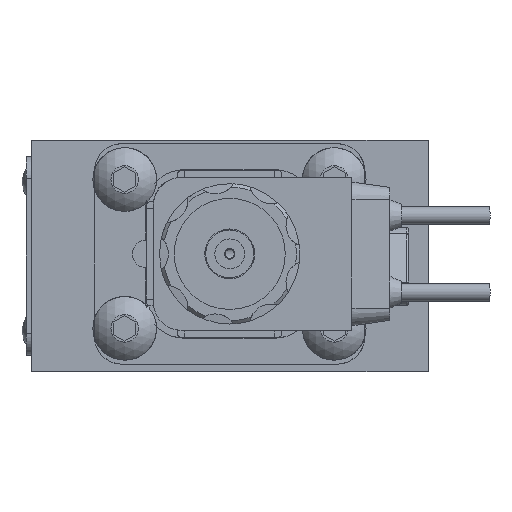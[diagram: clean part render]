
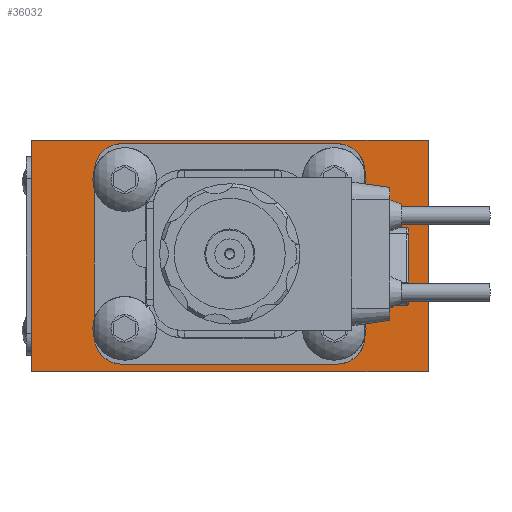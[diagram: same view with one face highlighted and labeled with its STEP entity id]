
A CAD part, left-side view. The second image highlights one B-rep face of the part: STEP entity #36032.
In plain terms, the highlighted planar face has unit normal (-1, 0, 0).
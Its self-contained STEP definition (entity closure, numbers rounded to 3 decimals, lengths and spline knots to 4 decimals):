
#351=FACE_BOUND('',#11064,.T.);
#1818=PLANE('',#39971);
#3086=LINE('',#58706,#5499);
#3089=LINE('',#58714,#5502);
#3092=LINE('',#58722,#5505);
#3095=LINE('',#58729,#5508);
#4049=LINE('',#63014,#6462);
#4058=LINE('',#63052,#6471);
#4088=LINE('',#63150,#6501);
#4157=LINE('',#63909,#6570);
#5499=VECTOR('',#45497,1.);
#5502=VECTOR('',#45506,1.);
#5505=VECTOR('',#45515,1.);
#5508=VECTOR('',#45524,1.);
#6462=VECTOR('',#49420,1.);
#6471=VECTOR('',#49451,1.);
#6501=VECTOR('',#49559,1.);
#6570=VECTOR('',#49984,1.);
#8805=FACE_OUTER_BOUND('',#11063,.T.);
#11063=EDGE_LOOP('',(#31107,#31108,#31109,#31110));
#11064=EDGE_LOOP('',(#31111,#31112,#31113,#31114,#31115,#31116,#31117,#31118));
#12317=CIRCLE('',#38260,0.3969);
#12318=CIRCLE('',#38263,0.3969);
#12319=CIRCLE('',#38266,0.3969);
#12320=CIRCLE('',#38269,0.3969);
#15443=VERTEX_POINT('',#58699);
#15444=VERTEX_POINT('',#58701);
#15445=VERTEX_POINT('',#58705);
#15446=VERTEX_POINT('',#58709);
#15447=VERTEX_POINT('',#58713);
#15448=VERTEX_POINT('',#58717);
#15449=VERTEX_POINT('',#58721);
#15450=VERTEX_POINT('',#58725);
#16602=VERTEX_POINT('',#63010);
#16604=VERTEX_POINT('',#63013);
#16622=VERTEX_POINT('',#63051);
#16651=VERTEX_POINT('',#63149);
#19525=EDGE_CURVE('',#15444,#15443,#12317,.T.);
#19527=EDGE_CURVE('',#15445,#15444,#3086,.T.);
#19529=EDGE_CURVE('',#15446,#15445,#12318,.T.);
#19531=EDGE_CURVE('',#15447,#15446,#3089,.T.);
#19533=EDGE_CURVE('',#15448,#15447,#12319,.T.);
#19535=EDGE_CURVE('',#15449,#15448,#3092,.T.);
#19537=EDGE_CURVE('',#15450,#15449,#12320,.T.);
#19539=EDGE_CURVE('',#15443,#15450,#3095,.T.);
#21348=EDGE_CURVE('',#16604,#16602,#4049,.T.);
#21367=EDGE_CURVE('',#16622,#16604,#4058,.T.);
#21413=EDGE_CURVE('',#16651,#16622,#4088,.T.);
#21598=EDGE_CURVE('',#16602,#16651,#4157,.T.);
#31107=ORIENTED_EDGE('',*,*,#21348,.T.);
#31108=ORIENTED_EDGE('',*,*,#21598,.T.);
#31109=ORIENTED_EDGE('',*,*,#21413,.T.);
#31110=ORIENTED_EDGE('',*,*,#21367,.T.);
#31111=ORIENTED_EDGE('',*,*,#19539,.T.);
#31112=ORIENTED_EDGE('',*,*,#19537,.T.);
#31113=ORIENTED_EDGE('',*,*,#19535,.T.);
#31114=ORIENTED_EDGE('',*,*,#19533,.T.);
#31115=ORIENTED_EDGE('',*,*,#19531,.T.);
#31116=ORIENTED_EDGE('',*,*,#19529,.T.);
#31117=ORIENTED_EDGE('',*,*,#19527,.T.);
#31118=ORIENTED_EDGE('',*,*,#19525,.T.);
#36032=ADVANCED_FACE('',(#8805,#351),#1818,.T.);
#38260=AXIS2_PLACEMENT_3D('',#58702,#45492,#45493);
#38263=AXIS2_PLACEMENT_3D('',#58710,#45501,#45502);
#38266=AXIS2_PLACEMENT_3D('',#58718,#45510,#45511);
#38269=AXIS2_PLACEMENT_3D('',#58726,#45519,#45520);
#39971=AXIS2_PLACEMENT_3D('',#63911,#49987,#49988);
#45492=DIRECTION('center_axis',(1.,0.,0.));
#45493=DIRECTION('ref_axis',(0.,0.,
-1.));
#45497=DIRECTION('',(0.,0.,1.));
#45501=DIRECTION('center_axis',(1.,0.,0.));
#45502=DIRECTION('ref_axis',(0.,-1.,0.));
#45506=DIRECTION('',(0.,1.,0.));
#45510=DIRECTION('center_axis',(1.,0.,0.));
#45511=DIRECTION('ref_axis',(0.,0.,
1.));
#45515=DIRECTION('',(0.,0.,-1.));
#45519=DIRECTION('center_axis',(1.,0.,0.));
#45520=DIRECTION('ref_axis',(0.,1.,0.));
#45524=DIRECTION('',(0.,-1.,0.));
#49420=DIRECTION('',(0.,1.,0.));
#49451=DIRECTION('',(0.,0.,1.));
#49559=DIRECTION('',(0.,-1.,0.));
#49984=DIRECTION('',(0.,0.,-1.));
#49987=DIRECTION('center_axis',(-1.,0.,0.));
#49988=DIRECTION('ref_axis',(0.,0.,1.));
#58699=CARTESIAN_POINT('',(-4.7117,1.5478,1.618));
#58701=CARTESIAN_POINT('',(-4.7117,1.9447,1.2211));
#58702=CARTESIAN_POINT('Origin',(-4.7117,1.5478,1.2211));
#58705=CARTESIAN_POINT('',(-4.7117,1.9447,-1.1601));
#58706=CARTESIAN_POINT('',(-4.7117,1.9447,-1.1601));
#58709=CARTESIAN_POINT('',(-4.7117,1.5478,-1.557));
#58710=CARTESIAN_POINT('Origin',(-4.7117,1.5478,-1.1601));
#58713=CARTESIAN_POINT('',(-4.7117,-1.5478,-1.557));
#58714=CARTESIAN_POINT('',(-4.7117,-1.5478,-1.557));
#58717=CARTESIAN_POINT('',(-4.7117,-1.9447,-1.1601));
#58718=CARTESIAN_POINT('Origin',(-4.7117,-1.5478,-1.1601));
#58721=CARTESIAN_POINT('',(-4.7117,-1.9447,1.2211));
#58722=CARTESIAN_POINT('',(-4.7117,-1.9447,1.2211));
#58725=CARTESIAN_POINT('',(-4.7117,-1.5478,1.618));
#58726=CARTESIAN_POINT('Origin',(-4.7117,-1.5478,1.2211));
#58729=CARTESIAN_POINT('',(-4.7117,1.5478,1.618));
#63010=CARTESIAN_POINT('',(-4.7117,2.8575,1.6662));
#63013=CARTESIAN_POINT('',(-4.7117,-2.8575,1.6662));
#63014=CARTESIAN_POINT('',(-4.7117,-2.8575,1.6662));
#63051=CARTESIAN_POINT('',(-4.7117,-2.8575,-1.6662));
#63052=CARTESIAN_POINT('',(-4.7117,-2.8575,0.));
#63149=CARTESIAN_POINT('',(-4.7117,2.8575,-1.6662));
#63150=CARTESIAN_POINT('',(-4.7117,-2.8575,-1.6662));
#63909=CARTESIAN_POINT('',(-4.7117,2.8575,0.));
#63911=CARTESIAN_POINT('Origin',(-4.7117,-2.8575,0.));
